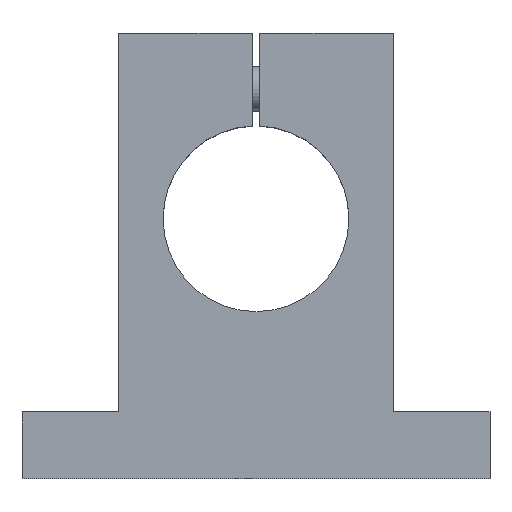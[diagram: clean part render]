
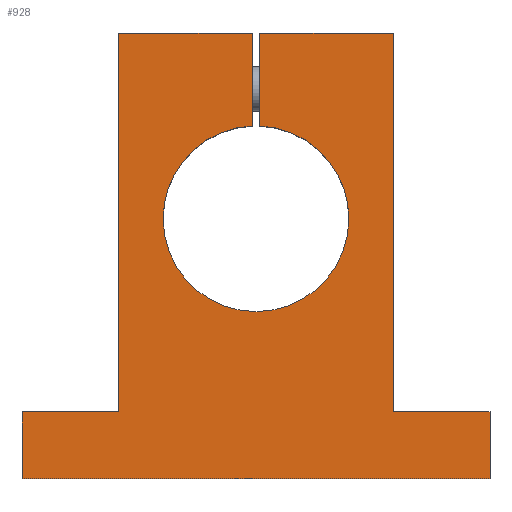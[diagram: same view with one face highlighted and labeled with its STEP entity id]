
A CAD part, top view. The second image highlights one B-rep face of the part: STEP entity #928.
In plain terms, the highlighted planar face has unit normal (0, 0, 1).
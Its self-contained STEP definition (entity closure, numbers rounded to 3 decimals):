
#3 = ORIENTED_EDGE ( 'NONE', *, *, #279, .T. ) ;
#9 = CARTESIAN_POINT ( 'NONE',  ( -1., 24.98, 0. ) ) ;
#21 = AXIS2_PLACEMENT_3D ( 'NONE', #694, #601, #95 ) ;
#39 = CARTESIAN_POINT ( 'NONE',  ( 0., 0., 0. ) ) ;
#43 = CIRCLE ( 'NONE', #1060, 25. ) ;
#49 = EDGE_CURVE ( 'NONE', #328, #676, #415, .T. ) ;
#55 = CARTESIAN_POINT ( 'NONE',  ( 63., -70., 0. ) ) ;
#80 = ORIENTED_EDGE ( 'NONE', *, *, #1043, .T. ) ;
#86 = EDGE_CURVE ( 'NONE', #281, #1003, #43, .T. ) ;
#95 = DIRECTION ( 'NONE',  ( 1., 0., 0. ) ) ;
#114 = DIRECTION ( 'NONE',  ( 0., 1., 0. ) ) ;
#140 = AXIS2_PLACEMENT_3D ( 'NONE', #39, #735, #724 ) ;
#141 = ORIENTED_EDGE ( 'NONE', *, *, #831, .T. ) ;
#153 = VECTOR ( 'NONE', #876, 1000. ) ;
#166 = LINE ( 'NONE', #427, #153 ) ;
#167 = DIRECTION ( 'NONE',  ( -1., 0., 0. ) ) ;
#190 = VECTOR ( 'NONE', #947, 1000. ) ;
#201 = LINE ( 'NONE', #443, #1056 ) ;
#204 = VERTEX_POINT ( 'NONE', #958 ) ;
#207 = LINE ( 'NONE', #1052, #333 ) ;
#212 = VECTOR ( 'NONE', #840, 1000. ) ;
#214 = DIRECTION ( 'NONE',  ( 0., 1., 0. ) ) ;
#279 = EDGE_CURVE ( 'NONE', #845, #863, #909, .T. ) ;
#281 = VERTEX_POINT ( 'NONE', #1006 ) ;
#296 = CARTESIAN_POINT ( 'NONE',  ( 1., 0., 0. ) ) ;
#297 = CARTESIAN_POINT ( 'NONE',  ( -63., -52., 0. ) ) ;
#299 = CARTESIAN_POINT ( 'NONE',  ( 63., -70., 0. ) ) ;
#307 = EDGE_LOOP ( 'NONE', ( #985, #715, #417, #447, #769, #80, #1057, #752, #440, #3, #141, #757, #813 ) ) ;
#309 = EDGE_CURVE ( 'NONE', #204, #845, #1074, .T. ) ;
#322 = EDGE_CURVE ( 'NONE', #1003, #663, #812, .T. ) ;
#328 = VERTEX_POINT ( 'NONE', #1088 ) ;
#333 = VECTOR ( 'NONE', #363, 1000. ) ;
#354 = EDGE_CURVE ( 'NONE', #676, #620, #520, .T. ) ;
#363 = DIRECTION ( 'NONE',  ( 0., -1., 0. ) ) ;
#395 = VERTEX_POINT ( 'NONE', #911 ) ;
#401 = CARTESIAN_POINT ( 'NONE',  ( 63., -52., 0. ) ) ;
#415 = LINE ( 'NONE', #762, #190 ) ;
#417 = ORIENTED_EDGE ( 'NONE', *, *, #322, .T. ) ;
#427 = CARTESIAN_POINT ( 'NONE',  ( 37., 50., 0. ) ) ;
#440 = ORIENTED_EDGE ( 'NONE', *, *, #309, .T. ) ;
#443 = CARTESIAN_POINT ( 'NONE',  ( -37., -52., 0. ) ) ;
#444 = DIRECTION ( 'NONE',  ( 1., 0., 0. ) ) ;
#447 = ORIENTED_EDGE ( 'NONE', *, *, #718, .T. ) ;
#471 = LINE ( 'NONE', #639, #1083 ) ;
#520 = LINE ( 'NONE', #1031, #1101 ) ;
#539 = CARTESIAN_POINT ( 'NONE',  ( 37., 50., 0. ) ) ;
#552 = DIRECTION ( 'NONE',  ( 0., -1., 0. ) ) ;
#565 = CARTESIAN_POINT ( 'NONE',  ( -63., -70., 0. ) ) ;
#573 = CARTESIAN_POINT ( 'NONE',  ( -37., -52., 0. ) ) ;
#593 = CARTESIAN_POINT ( 'NONE',  ( 1., 50., 0. ) ) ;
#601 = DIRECTION ( 'NONE',  ( 0., 0., 1. ) ) ;
#612 = CARTESIAN_POINT ( 'NONE',  ( -1., 50., 0. ) ) ;
#618 = DIRECTION ( 'NONE',  ( 0., 0., -1. ) ) ;
#620 = VERTEX_POINT ( 'NONE', #593 ) ;
#638 = DIRECTION ( 'NONE',  ( -1., 0., 0. ) ) ;
#639 = CARTESIAN_POINT ( 'NONE',  ( -1., 25., 0. ) ) ;
#650 = VECTOR ( 'NONE', #924, 1000. ) ;
#661 = LINE ( 'NONE', #401, #650 ) ;
#663 = VERTEX_POINT ( 'NONE', #9 ) ;
#676 = VERTEX_POINT ( 'NONE', #539 ) ;
#694 = CARTESIAN_POINT ( 'NONE',  ( 0., 0., 0. ) ) ;
#698 = FACE_OUTER_BOUND ( 'NONE', #307, .T. ) ;
#705 = DIRECTION ( 'NONE',  ( 0., -1., 0. ) ) ;
#715 = ORIENTED_EDGE ( 'NONE', *, *, #86, .T. ) ;
#718 = EDGE_CURVE ( 'NONE', #663, #969, #471, .T. ) ;
#724 = DIRECTION ( 'NONE',  ( 1., 0., 0. ) ) ;
#733 = VECTOR ( 'NONE', #705, 1000. ) ;
#735 = DIRECTION ( 'NONE',  ( 0., 0., -1. ) ) ;
#750 = CARTESIAN_POINT ( 'NONE',  ( 63., -52., 0. ) ) ;
#752 = ORIENTED_EDGE ( 'NONE', *, *, #773, .T. ) ;
#757 = ORIENTED_EDGE ( 'NONE', *, *, #49, .T. ) ;
#762 = CARTESIAN_POINT ( 'NONE',  ( 37., -52., 0. ) ) ;
#769 = ORIENTED_EDGE ( 'NONE', *, *, #974, .T. ) ;
#773 = EDGE_CURVE ( 'NONE', #791, #204, #821, .T. ) ;
#782 = CARTESIAN_POINT ( 'NONE',  ( 0., -25., 0. ) ) ;
#786 = VERTEX_POINT ( 'NONE', #573 ) ;
#791 = VERTEX_POINT ( 'NONE', #1011 ) ;
#803 = CARTESIAN_POINT ( 'NONE',  ( 0., 0., 0. ) ) ;
#812 = CIRCLE ( 'NONE', #140, 25. ) ;
#813 = ORIENTED_EDGE ( 'NONE', *, *, #354, .T. ) ;
#821 = LINE ( 'NONE', #297, #885 ) ;
#831 = EDGE_CURVE ( 'NONE', #863, #328, #661, .T. ) ;
#840 = DIRECTION ( 'NONE',  ( 1., 0., 0. ) ) ;
#845 = VERTEX_POINT ( 'NONE', #55 ) ;
#863 = VERTEX_POINT ( 'NONE', #750 ) ;
#876 = DIRECTION ( 'NONE',  ( -1., 0., 0. ) ) ;
#885 = VECTOR ( 'NONE', #552, 1000. ) ;
#896 = LINE ( 'NONE', #296, #733 ) ;
#909 = LINE ( 'NONE', #299, #937 ) ;
#911 = CARTESIAN_POINT ( 'NONE',  ( -37., 50., 0. ) ) ;
#924 = DIRECTION ( 'NONE',  ( -1., 0., 0. ) ) ;
#928 = ADVANCED_FACE ( 'NONE', ( #698 ), #1123, .T. ) ;
#937 = VECTOR ( 'NONE', #214, 1000. ) ;
#947 = DIRECTION ( 'NONE',  ( 0., 1., 0. ) ) ;
#958 = CARTESIAN_POINT ( 'NONE',  ( -63., -70., 0. ) ) ;
#969 = VERTEX_POINT ( 'NONE', #612 ) ;
#974 = EDGE_CURVE ( 'NONE', #969, #395, #166, .T. ) ;
#985 = ORIENTED_EDGE ( 'NONE', *, *, #1107, .T. ) ;
#1003 = VERTEX_POINT ( 'NONE', #782 ) ;
#1006 = CARTESIAN_POINT ( 'NONE',  ( 1., 24.98, 0. ) ) ;
#1011 = CARTESIAN_POINT ( 'NONE',  ( -63., -52., 0. ) ) ;
#1030 = EDGE_CURVE ( 'NONE', #786, #791, #201, .T. ) ;
#1031 = CARTESIAN_POINT ( 'NONE',  ( 37., 50., 0. ) ) ;
#1043 = EDGE_CURVE ( 'NONE', #395, #786, #207, .T. ) ;
#1052 = CARTESIAN_POINT ( 'NONE',  ( -37., 50., 0. ) ) ;
#1056 = VECTOR ( 'NONE', #638, 1000. ) ;
#1057 = ORIENTED_EDGE ( 'NONE', *, *, #1030, .T. ) ;
#1060 = AXIS2_PLACEMENT_3D ( 'NONE', #803, #618, #444 ) ;
#1074 = LINE ( 'NONE', #565, #212 ) ;
#1083 = VECTOR ( 'NONE', #114, 1000. ) ;
#1088 = CARTESIAN_POINT ( 'NONE',  ( 37., -52., 0. ) ) ;
#1101 = VECTOR ( 'NONE', #167, 1000. ) ;
#1107 = EDGE_CURVE ( 'NONE', #620, #281, #896, .T. ) ;
#1123 = PLANE ( 'NONE',  #21 ) ;
